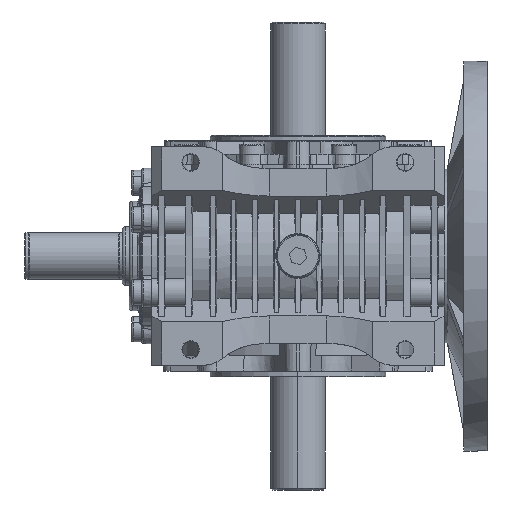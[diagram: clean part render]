
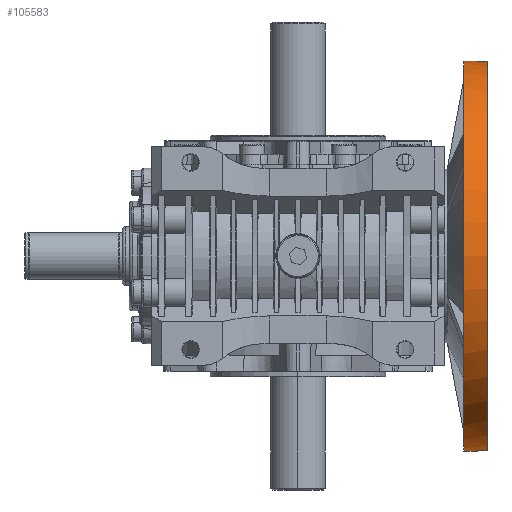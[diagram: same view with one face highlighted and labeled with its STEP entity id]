
A CAD part, front view. The second image highlights one B-rep face of the part: STEP entity #105583.
In plain terms, the highlighted cylindrical face has radius 100 mm (diameter 200 mm), a partial arc.
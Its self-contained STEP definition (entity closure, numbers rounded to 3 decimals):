
#2911 = AXIS2_PLACEMENT_3D ( 'NONE', #106545, #97189, #18158 ) ;
#5048 = DIRECTION ( 'NONE',  ( 1., 0., 0. ) ) ;
#5210 = EDGE_CURVE ( 'NONE', #109975, #87379, #75279, .T. ) ;
#5546 = DIRECTION ( 'NONE',  ( 0., 0., 1. ) ) ;
#7753 = LINE ( 'NONE', #42334, #13326 ) ;
#10482 = CARTESIAN_POINT ( 'NONE',  ( 187.177, -69., -99.82 ) ) ;
#13326 = VECTOR ( 'NONE', #52241, 1000. ) ;
#16553 = LINE ( 'NONE', #78572, #81170 ) ;
#16686 = CARTESIAN_POINT ( 'NONE',  ( 85., -63., 100. ) ) ;
#18158 = DIRECTION ( 'NONE',  ( 0., 0., -1. ) ) ;
#19272 = DIRECTION ( 'NONE',  ( -1., 0., 0. ) ) ;
#19537 = DIRECTION ( 'NONE',  ( 0., 0., -1. ) ) ;
#22375 = CARTESIAN_POINT ( 'NONE',  ( 97., -69., 99.82 ) ) ;
#23346 = ORIENTED_EDGE ( 'NONE', *, *, #88466, .F. ) ;
#24705 = VERTEX_POINT ( 'NONE', #35734 ) ;
#29869 = ORIENTED_EDGE ( 'NONE', *, *, #110895, .T. ) ;
#30173 = ORIENTED_EDGE ( 'NONE', *, *, #72295, .F. ) ;
#32505 = CARTESIAN_POINT ( 'NONE',  ( 92., -63., 0. ) ) ;
#33385 = DIRECTION ( 'NONE',  ( 1., 0., 0. ) ) ;
#35734 = CARTESIAN_POINT ( 'NONE',  ( 85., -63., -100. ) ) ;
#37365 = CARTESIAN_POINT ( 'NONE',  ( 97., -69., -99.82 ) ) ;
#40132 = DIRECTION ( 'NONE',  ( 0., 0., -1. ) ) ;
#42334 = CARTESIAN_POINT ( 'NONE',  ( 187.177, -63., -100. ) ) ;
#44603 = CARTESIAN_POINT ( 'NONE',  ( 92., -63., 100. ) ) ;
#47021 = CARTESIAN_POINT ( 'NONE',  ( 97., -63., 0. ) ) ;
#48403 = CIRCLE ( 'NONE', #74557, 100. ) ;
#49155 = DIRECTION ( 'NONE',  ( 0., 0., -1. ) ) ;
#49871 = AXIS2_PLACEMENT_3D ( 'NONE', #60217, #33385, #49155 ) ;
#50601 = VERTEX_POINT ( 'NONE', #44603 ) ;
#52241 = DIRECTION ( 'NONE',  ( 1., 0., 0. ) ) ;
#53737 = VERTEX_POINT ( 'NONE', #108946 ) ;
#58294 = VERTEX_POINT ( 'NONE', #37365 ) ;
#60217 = CARTESIAN_POINT ( 'NONE',  ( 85., -63., 0. ) ) ;
#64988 = VECTOR ( 'NONE', #19272, 1000. ) ;
#65712 = VERTEX_POINT ( 'NONE', #16686 ) ;
#66130 = ORIENTED_EDGE ( 'NONE', *, *, #70089, .T. ) ;
#70089 = EDGE_CURVE ( 'NONE', #65712, #24705, #91001, .T. ) ;
#72295 = EDGE_CURVE ( 'NONE', #58294, #53737, #81902, .T. ) ;
#74557 = AXIS2_PLACEMENT_3D ( 'NONE', #85763, #102718, #5546 ) ;
#75279 = LINE ( 'NONE', #111013, #109507 ) ;
#77569 = EDGE_CURVE ( 'NONE', #24705, #113669, #7753, .T. ) ;
#78572 = CARTESIAN_POINT ( 'NONE',  ( 187.177, -63., 100. ) ) ;
#78670 = AXIS2_PLACEMENT_3D ( 'NONE', #47021, #100286, #19537 ) ;
#79822 = CARTESIAN_POINT ( 'NONE',  ( 92., -69., 99.82 ) ) ;
#80743 = ORIENTED_EDGE ( 'NONE', *, *, #84843, .F. ) ;
#81170 = VECTOR ( 'NONE', #114282, 1000. ) ;
#81902 = LINE ( 'NONE', #10482, #64988 ) ;
#84273 = CIRCLE ( 'NONE', #78670, 100. ) ;
#84689 = AXIS2_PLACEMENT_3D ( 'NONE', #32505, #92800, #40132 ) ;
#84843 = EDGE_CURVE ( 'NONE', #87379, #58294, #84273, .T. ) ;
#85763 = CARTESIAN_POINT ( 'NONE',  ( 92., -63., 0. ) ) ;
#87379 = VERTEX_POINT ( 'NONE', #22375 ) ;
#88466 = EDGE_CURVE ( 'NONE', #50601, #109975, #107068, .T. ) ;
#89877 = EDGE_CURVE ( 'NONE', #65712, #50601, #16553, .T. ) ;
#90123 = FACE_OUTER_BOUND ( 'NONE', #104936, .T. ) ;
#91001 = CIRCLE ( 'NONE', #49871, 100. ) ;
#92800 = DIRECTION ( 'NONE',  ( 1., 0., 0. ) ) ;
#93490 = CARTESIAN_POINT ( 'NONE',  ( 92., -63., -100. ) ) ;
#97189 = DIRECTION ( 'NONE',  ( 1., 0., 0. ) ) ;
#98329 = CYLINDRICAL_SURFACE ( 'NONE', #2911, 100. ) ;
#98556 = ORIENTED_EDGE ( 'NONE', *, *, #5210, .F. ) ;
#100286 = DIRECTION ( 'NONE',  ( 1., 0., 0. ) ) ;
#102718 = DIRECTION ( 'NONE',  ( -1., 0., 0. ) ) ;
#104673 = ORIENTED_EDGE ( 'NONE', *, *, #89877, .F. ) ;
#104936 = EDGE_LOOP ( 'NONE', ( #104673, #66130, #113137, #29869, #30173, #80743, #98556, #23346 ) ) ;
#105583 = ADVANCED_FACE ( 'NONE', ( #90123 ), #98329, .T. ) ;
#106545 = CARTESIAN_POINT ( 'NONE',  ( 187.177, -63., 0. ) ) ;
#107068 = CIRCLE ( 'NONE', #84689, 100. ) ;
#108946 = CARTESIAN_POINT ( 'NONE',  ( 92., -69., -99.82 ) ) ;
#109507 = VECTOR ( 'NONE', #5048, 1000. ) ;
#109975 = VERTEX_POINT ( 'NONE', #79822 ) ;
#110895 = EDGE_CURVE ( 'NONE', #113669, #53737, #48403, .T. ) ;
#111013 = CARTESIAN_POINT ( 'NONE',  ( 187.177, -69., 99.82 ) ) ;
#113137 = ORIENTED_EDGE ( 'NONE', *, *, #77569, .T. ) ;
#113669 = VERTEX_POINT ( 'NONE', #93490 ) ;
#114282 = DIRECTION ( 'NONE',  ( 1., 0., 0. ) ) ;
